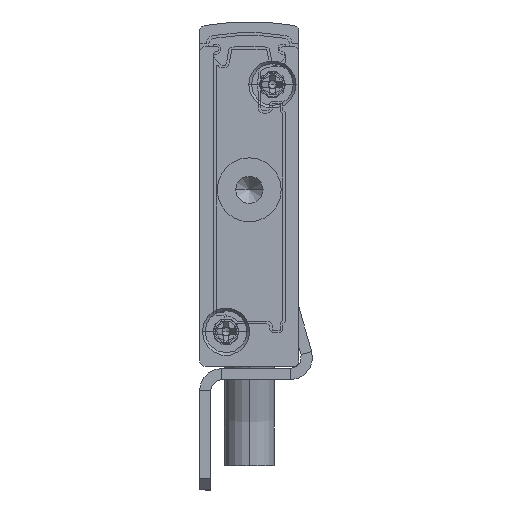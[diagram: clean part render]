
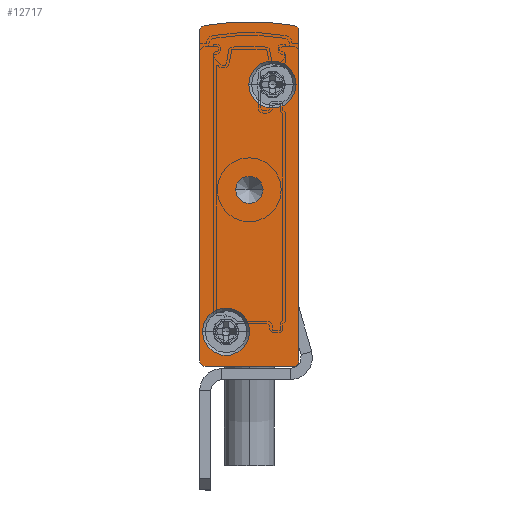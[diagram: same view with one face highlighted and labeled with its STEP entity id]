
A CAD part, front view. The second image highlights one B-rep face of the part: STEP entity #12717.
In plain terms, the highlighted planar face has unit normal (0, -1, 0).
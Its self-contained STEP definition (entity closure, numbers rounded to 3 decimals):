
#512 = DIRECTION ( 'NONE',  ( 0., -1., 0. ) ) ;
#577 = CARTESIAN_POINT ( 'NONE',  ( -4.45, -2.5, 3.15 ) ) ;
#907 = CARTESIAN_POINT ( 'NONE',  ( -4.55, -2.5, 25.55 ) ) ;
#1086 = VERTEX_POINT ( 'NONE', #16196 ) ;
#1249 = DIRECTION ( 'NONE',  ( 0., -1., 0. ) ) ;
#1670 = DIRECTION ( 'NONE',  ( -1., 0., 0. ) ) ;
#1672 = ORIENTED_EDGE ( 'NONE', *, *, #7865, .F. ) ;
#1734 = ORIENTED_EDGE ( 'NONE', *, *, #11854, .F. ) ;
#1794 = VERTEX_POINT ( 'NONE', #5743 ) ;
#1827 = ORIENTED_EDGE ( 'NONE', *, *, #8035, .F. ) ;
#1867 = VECTOR ( 'NONE', #1670, 1000. ) ;
#2009 = EDGE_CURVE ( 'NONE', #6378, #7250, #12379, .T. ) ;
#2034 = VERTEX_POINT ( 'NONE', #19184 ) ;
#2174 = CARTESIAN_POINT ( 'NONE',  ( -8.5, -2.5, 0. ) ) ;
#2311 = DIRECTION ( 'NONE',  ( 1., 0., 0. ) ) ;
#2445 = AXIS2_PLACEMENT_3D ( 'NONE', #8675, #6589, #12080 ) ;
#2481 = CARTESIAN_POINT ( 'NONE',  ( -0.25, -2.5, 25.55 ) ) ;
#2630 = CARTESIAN_POINT ( 'NONE',  ( -4.5, -2.5, 16. ) ) ;
#3027 = EDGE_LOOP ( 'NONE', ( #23130, #13973 ) ) ;
#3106 = CARTESIAN_POINT ( 'NONE',  ( -0.408, -2.5, 30.893 ) ) ;
#3357 = DIRECTION ( 'NONE',  ( 0., 1., 0. ) ) ;
#3467 = CARTESIAN_POINT ( 'NONE',  ( 0., -2.5, 30.402 ) ) ;
#3565 = AXIS2_PLACEMENT_3D ( 'NONE', #6095, #20845, #13508 ) ;
#3950 = CARTESIAN_POINT ( 'NONE',  ( -2.4, -2.5, 25.55 ) ) ;
#4140 = CARTESIAN_POINT ( 'NONE',  ( -6.6, -2.5, 3.15 ) ) ;
#4187 = AXIS2_PLACEMENT_3D ( 'NONE', #7127, #14578, #23733 ) ;
#4261 = DIRECTION ( 'NONE',  ( 0., 1., 0. ) ) ;
#4302 = DIRECTION ( 'NONE',  ( 0., -1., 0. ) ) ;
#4546 = AXIS2_PLACEMENT_3D ( 'NONE', #4941, #1249, #16290 ) ;
#4897 = FACE_BOUND ( 'NONE', #18526, .T. ) ;
#4941 = CARTESIAN_POINT ( 'NONE',  ( -6.6, -2.5, 3.15 ) ) ;
#4987 = AXIS2_PLACEMENT_3D ( 'NONE', #17104, #22415, #15235 ) ;
#5004 = DIRECTION ( 'NONE',  ( 0., 1., 0. ) ) ;
#5330 = DIRECTION ( 'NONE',  ( -1., 0., 0. ) ) ;
#5473 = FACE_BOUND ( 'NONE', #14150, .T. ) ;
#5544 = DIRECTION ( 'NONE',  ( 0., 0., 1. ) ) ;
#5743 = CARTESIAN_POINT ( 'NONE',  ( 0., -2.5, 30.402 ) ) ;
#5820 = VERTEX_POINT ( 'NONE', #22843 ) ;
#6095 = CARTESIAN_POINT ( 'NONE',  ( -4.5, -2.5, 16. ) ) ;
#6102 = CARTESIAN_POINT ( 'NONE',  ( -0.5, -2.5, 30.402 ) ) ;
#6274 = ORIENTED_EDGE ( 'NONE', *, *, #2009, .T. ) ;
#6319 = CARTESIAN_POINT ( 'NONE',  ( -5.75, -2.5, 16. ) ) ;
#6378 = VERTEX_POINT ( 'NONE', #6319 ) ;
#6589 = DIRECTION ( 'NONE',  ( 0., -1., 0. ) ) ;
#6922 = CIRCLE ( 'NONE', #4546, 2.15 ) ;
#6936 = DIRECTION ( 'NONE',  ( 0., 0., -1. ) ) ;
#7127 = CARTESIAN_POINT ( 'NONE',  ( -8.5, -2.5, 0.5 ) ) ;
#7170 = CARTESIAN_POINT ( 'NONE',  ( -9., -2.5, 30.402 ) ) ;
#7250 = VERTEX_POINT ( 'NONE', #16426 ) ;
#7865 = EDGE_CURVE ( 'NONE', #5820, #21771, #15801, .T. ) ;
#8035 = EDGE_CURVE ( 'NONE', #9692, #1794, #17260, .T. ) ;
#8675 = CARTESIAN_POINT ( 'NONE',  ( -2.4, -2.5, 25.55 ) ) ;
#8849 = EDGE_CURVE ( 'NONE', #22810, #17399, #18005, .T. ) ;
#9111 = CIRCLE ( 'NONE', #22042, 0.5 ) ;
#9612 = ORIENTED_EDGE ( 'NONE', *, *, #12175, .F. ) ;
#9692 = VERTEX_POINT ( 'NONE', #3106 ) ;
#10376 = VECTOR ( 'NONE', #5544, 1000. ) ;
#10573 = VERTEX_POINT ( 'NONE', #15566 ) ;
#11538 = EDGE_CURVE ( 'NONE', #1086, #13094, #18049, .T. ) ;
#11633 = CIRCLE ( 'NONE', #2445, 2.15 ) ;
#11694 = VECTOR ( 'NONE', #6936, 1000. ) ;
#11808 = DIRECTION ( 'NONE',  ( -1., 0., 0. ) ) ;
#11854 = EDGE_CURVE ( 'NONE', #2034, #13453, #18920, .T. ) ;
#11897 = CARTESIAN_POINT ( 'NONE',  ( -8.592, -2.5, 30.893 ) ) ;
#12080 = DIRECTION ( 'NONE',  ( 1., 0., 0. ) ) ;
#12104 = EDGE_LOOP ( 'NONE', ( #21626, #1672, #15631, #18393, #23317, #21878, #1827, #20439 ) ) ;
#12175 = EDGE_CURVE ( 'NONE', #13453, #2034, #6922, .T. ) ;
#12371 = EDGE_CURVE ( 'NONE', #13094, #5820, #19009, .T. ) ;
#12379 = CIRCLE ( 'NONE', #14533, 1.25 ) ;
#12519 = CARTESIAN_POINT ( 'NONE',  ( -8.5, -2.5, 0. ) ) ;
#12565 = CARTESIAN_POINT ( 'NONE',  ( -9., -2.5, 30.402 ) ) ;
#12717 = ADVANCED_FACE ( 'NONE', ( #23983, #5473, #20718, #4897 ), #23430, .F. ) ;
#13094 = VERTEX_POINT ( 'NONE', #2174 ) ;
#13160 = EDGE_CURVE ( 'NONE', #7250, #6378, #21738, .T. ) ;
#13221 = AXIS2_PLACEMENT_3D ( 'NONE', #4140, #512, #2311 ) ;
#13453 = VERTEX_POINT ( 'NONE', #577 ) ;
#13508 = DIRECTION ( 'NONE',  ( -1., 0., 0. ) ) ;
#13778 = DIRECTION ( 'NONE',  ( -1., 0., 0. ) ) ;
#13973 = ORIENTED_EDGE ( 'NONE', *, *, #8849, .F. ) ;
#14150 = EDGE_LOOP ( 'NONE', ( #9612, #1734 ) ) ;
#14533 = AXIS2_PLACEMENT_3D ( 'NONE', #2630, #21200, #13778 ) ;
#14578 = DIRECTION ( 'NONE',  ( 0., 1., 0. ) ) ;
#14604 = EDGE_CURVE ( 'NONE', #1794, #10573, #17791, .T. ) ;
#15157 = EDGE_CURVE ( 'NONE', #17399, #22810, #11633, .T. ) ;
#15235 = DIRECTION ( 'NONE',  ( -1., 0., 0. ) ) ;
#15450 = CIRCLE ( 'NONE', #22109, 23.658 ) ;
#15566 = CARTESIAN_POINT ( 'NONE',  ( 0., -2.5, 0.5 ) ) ;
#15631 = ORIENTED_EDGE ( 'NONE', *, *, #12371, .F. ) ;
#15801 = LINE ( 'NONE', #12565, #10376 ) ;
#16196 = CARTESIAN_POINT ( 'NONE',  ( -0.5, -2.5, 0. ) ) ;
#16290 = DIRECTION ( 'NONE',  ( 1., 0., 0. ) ) ;
#16426 = CARTESIAN_POINT ( 'NONE',  ( -3.25, -2.5, 16. ) ) ;
#16572 = EDGE_CURVE ( 'NONE', #21771, #20990, #19548, .T. ) ;
#16715 = AXIS2_PLACEMENT_3D ( 'NONE', #3950, #4302, #18782 ) ;
#17104 = CARTESIAN_POINT ( 'NONE',  ( -8.5, -2.5, 30.402 ) ) ;
#17260 = CIRCLE ( 'NONE', #22662, 0.5 ) ;
#17399 = VERTEX_POINT ( 'NONE', #2481 ) ;
#17791 = LINE ( 'NONE', #3467, #11694 ) ;
#18005 = CIRCLE ( 'NONE', #16715, 2.15 ) ;
#18015 = CARTESIAN_POINT ( 'NONE',  ( -8.5, -2.5, 30.402 ) ) ;
#18049 = LINE ( 'NONE', #12519, #1867 ) ;
#18393 = ORIENTED_EDGE ( 'NONE', *, *, #11538, .F. ) ;
#18526 = EDGE_LOOP ( 'NONE', ( #6274, #23232 ) ) ;
#18782 = DIRECTION ( 'NONE',  ( 1., 0., 0. ) ) ;
#18920 = CIRCLE ( 'NONE', #13221, 2.15 ) ;
#19009 = CIRCLE ( 'NONE', #4187, 0.5 ) ;
#19184 = CARTESIAN_POINT ( 'NONE',  ( -8.75, -2.5, 3.15 ) ) ;
#19292 = EDGE_CURVE ( 'NONE', #20990, #9692, #15450, .T. ) ;
#19548 = CIRCLE ( 'NONE', #4987, 0.5 ) ;
#19565 = DIRECTION ( 'NONE',  ( -1., 0., 0. ) ) ;
#20439 = ORIENTED_EDGE ( 'NONE', *, *, #19292, .F. ) ;
#20718 = FACE_OUTER_BOUND ( 'NONE', #12104, .T. ) ;
#20845 = DIRECTION ( 'NONE',  ( 0., 1., 0. ) ) ;
#20987 = CARTESIAN_POINT ( 'NONE',  ( -0.5, -2.5, 0.5 ) ) ;
#20990 = VERTEX_POINT ( 'NONE', #11897 ) ;
#21200 = DIRECTION ( 'NONE',  ( 0., 1., 0. ) ) ;
#21626 = ORIENTED_EDGE ( 'NONE', *, *, #16572, .F. ) ;
#21738 = CIRCLE ( 'NONE', #3565, 1.25 ) ;
#21771 = VERTEX_POINT ( 'NONE', #7170 ) ;
#21878 = ORIENTED_EDGE ( 'NONE', *, *, #14604, .F. ) ;
#22042 = AXIS2_PLACEMENT_3D ( 'NONE', #20987, #4261, #11808 ) ;
#22109 = AXIS2_PLACEMENT_3D ( 'NONE', #23587, #5004, #23336 ) ;
#22415 = DIRECTION ( 'NONE',  ( 0., 1., 0. ) ) ;
#22662 = AXIS2_PLACEMENT_3D ( 'NONE', #6102, #22813, #19565 ) ;
#22810 = VERTEX_POINT ( 'NONE', #907 ) ;
#22813 = DIRECTION ( 'NONE',  ( 0., 1., 0. ) ) ;
#22843 = CARTESIAN_POINT ( 'NONE',  ( -9., -2.5, 0.5 ) ) ;
#23130 = ORIENTED_EDGE ( 'NONE', *, *, #15157, .F. ) ;
#23232 = ORIENTED_EDGE ( 'NONE', *, *, #13160, .T. ) ;
#23317 = ORIENTED_EDGE ( 'NONE', *, *, #23909, .F. ) ;
#23336 = DIRECTION ( 'NONE',  ( -1., 0., 0. ) ) ;
#23430 = PLANE ( 'NONE',  #23879 ) ;
#23587 = CARTESIAN_POINT ( 'NONE',  ( -4.5, -2.5, 7.592 ) ) ;
#23733 = DIRECTION ( 'NONE',  ( -1., 0., 0. ) ) ;
#23879 = AXIS2_PLACEMENT_3D ( 'NONE', #18015, #3357, #5330 ) ;
#23909 = EDGE_CURVE ( 'NONE', #10573, #1086, #9111, .T. ) ;
#23983 = FACE_BOUND ( 'NONE', #3027, .T. ) ;
